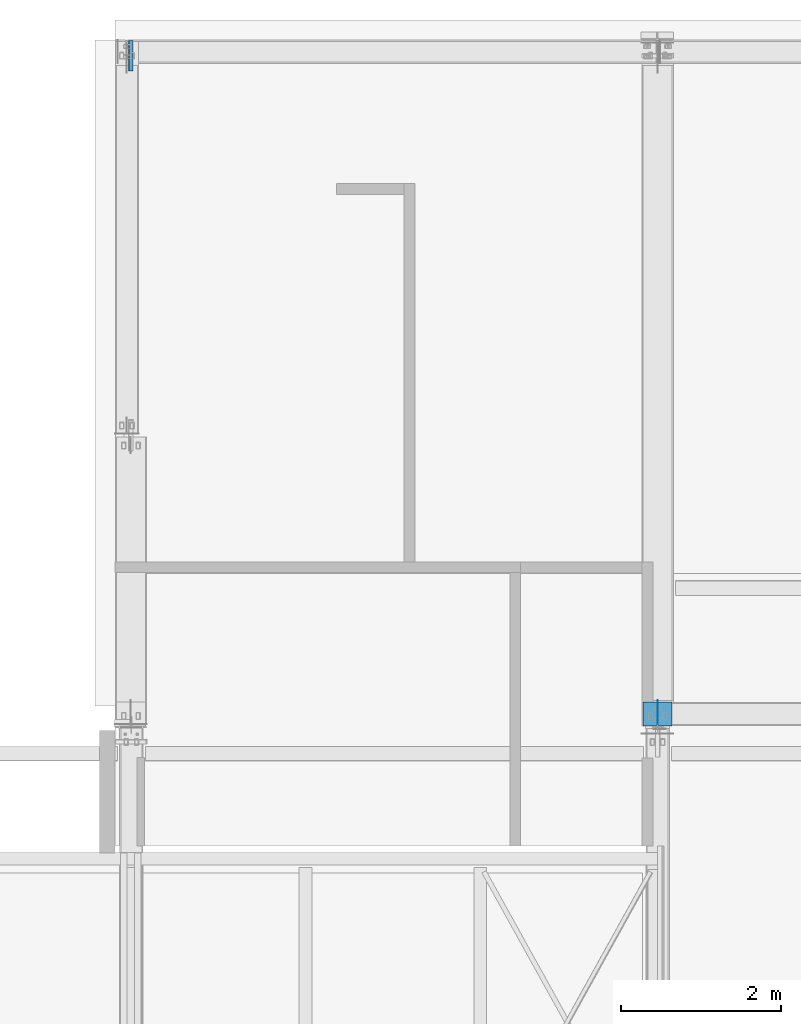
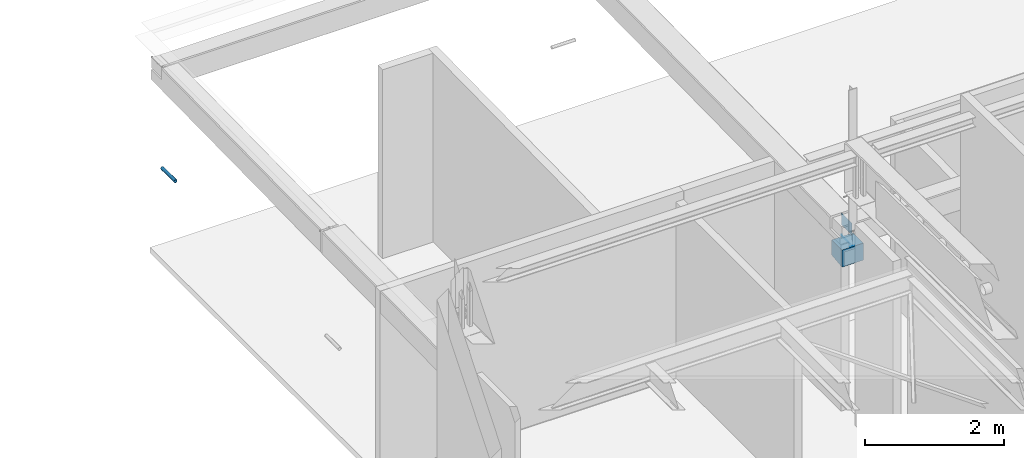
# One storey, part 44 of 186: 4 beams.
"""IFC4X3_ADD2 building model written with IfcOpenShell, lengths in millimetres."""

import ifcopenshell
import ifcopenshell.guid

model = None  # the IFC model being written
_history = None  # IfcOwnerHistory: only IFC2X3 demands one
_inside = {}  # id of a spatial element -> (the spatial element, [elements in it])
_under = {}  # id of a project, library or spatial element -> (it, [spatial elements below it])
_declared = {}  # id of a project -> (the project, [libraries it declares])
_typed = {}  # id of a type object -> (the type object, [elements of that type])
_made_of = {}  # id of a material, layer set ... -> (it, [elements and type objects made of it])


def new_model(schema):
    """Start an empty IFC model of exactly this schema.

    Asked for "IFC4X3", IfcOpenShell would pick the latest addendum, in which some entities
    have other attributes; the version numbers below select the first issue.
    IFC2X3 requires an IfcOwnerHistory on every rooted entity: one is made here for all.
    """
    global model, _history
    if schema == "IFC4X3":
        model = ifcopenshell.file(schema_version=(4, 3, 0, 0))
    else:
        model = ifcopenshell.file(schema=schema)
    _inside.clear()
    _under.clear()
    _declared.clear()
    _typed.clear()
    _made_of.clear()
    _history = None
    if model.schema == "IFC2X3":
        org = make("IfcOrganization", Name="unknown")
        user = make(
            "IfcPersonAndOrganization",
            ThePerson=make("IfcPerson", FamilyName="unknown"),
            TheOrganization=org,
        )
        app = make(
            "IfcApplication",
            ApplicationDeveloper=org,
            Version="unknown",
            ApplicationFullName="unknown",
            ApplicationIdentifier="unknown",
        )
        _history = make(
            "IfcOwnerHistory",
            OwningUser=user,
            OwningApplication=app,
            ChangeAction="ADDED",
            CreationDate=0,
        )
    return model


def make(cls, **values):
    """One entity of the class cls with the attributes given. An attribute that is None is left unset."""
    return model.create_entity(
        cls, **{name: value for name, value in values.items() if value is not None}
    )


def entity(cls, *values):
    """Any entity or typed value of the class cls, its attributes in the order of the schema. None: left unset."""
    e = model.create_entity(cls)
    for i, value in enumerate(values):
        if value is not None:
            e[i] = value
    return e


def rooted(cls, **values):
    """An entity with a GlobalId (a new one), such as an element, a storey or a relation."""
    return make(cls, GlobalId=ifcopenshell.guid.new(), OwnerHistory=_history, **values)


def si_unit(unit_type, name, prefix=None):
    """IfcSIUnit, for example si_unit("LENGTHUNIT", "METRE", prefix="MILLI")."""
    return make("IfcSIUnit", UnitType=unit_type, Prefix=prefix, Name=name)


def assignment(units):
    """IfcUnitAssignment: the units of a project."""
    return None if units is None else make("IfcUnitAssignment", Units=units)


def point(xyz):
    """IfcCartesianPoint."""
    return None if xyz is None else make("IfcCartesianPoint", Coordinates=xyz)


def direction(xyz):
    """IfcDirection."""
    return None if xyz is None else make("IfcDirection", DirectionRatios=xyz)


def frame(location, z_axis=None, x_axis=None):
    """IfcAxis2Placement3D, a coordinate frame: its origin and axes. An axis left out is left unset."""
    return make(
        "IfcAxis2Placement3D",
        Location=point(location),
        Axis=direction(z_axis),
        RefDirection=direction(x_axis),
    )


def frame_2d(location, x_axis=None):
    """IfcAxis2Placement2D, a coordinate frame in the plane: its origin and x axis."""
    return make(
        "IfcAxis2Placement2D", Location=point(location), RefDirection=direction(x_axis)
    )


def origin_with_axes():
    """The frame at (0, 0, 0) with the z axis (0, 0, 1) and the x axis (1, 0, 0) written out."""
    return frame((0.0, 0.0, 0.0), z_axis=(0.0, 0.0, 1.0), x_axis=(1.0, 0.0, 0.0))


def place(relative_to, where):
    """IfcLocalPlacement: puts the frame where relative to a parent placement (None: the world)."""
    return make(
        "IfcLocalPlacement", PlacementRelTo=relative_to, RelativePlacement=where
    )


def context(
    kind, dimensions, precision=None, world=None, true_north=None, identifier=None
):
    """IfcGeometricRepresentationContext, for example the 3D "Model" context."""
    return make(
        "IfcGeometricRepresentationContext",
        ContextIdentifier=identifier,
        ContextType=kind,
        CoordinateSpaceDimension=dimensions,
        Precision=precision,
        WorldCoordinateSystem=world,
        TrueNorth=true_north,
    )


def subcontext(parent, identifier, kind, view, scale=None):
    """IfcGeometricRepresentationSubContext, for example "Body" below "Model"."""
    return make(
        "IfcGeometricRepresentationSubContext",
        ContextIdentifier=identifier,
        ContextType=kind,
        ParentContext=parent,
        TargetScale=scale,
        TargetView=view,
    )


def project(units=None, contexts=None):
    """IfcProject with its units and contexts."""
    return rooted(
        "IfcProject",
        Name="project",
        RepresentationContexts=contexts,
        UnitsInContext=assignment(units),
    )


def spatial(cls, under=None, at=None, **own):
    """A site, building, storey or space (cls), placed at a placement, below another one or the project."""
    s = rooted(cls, ObjectPlacement=at, **own)
    if under is not None:
        _under.setdefault(under.id(), (under, []))[1].append(s)
    return s


def profile(cls, at=None, kind="AREA", **sizes):
    """A parametric profile (cls). Its sizes go by their IFC names, for example OverallWidth=200.0."""
    return make(cls, ProfileType=kind, Position=at, **sizes)


def rectangle(**sizes):
    """IfcRectangleProfileDef."""
    return profile("IfcRectangleProfileDef", **sizes)


def hollow_circle(**sizes):
    """IfcCircleHollowProfileDef."""
    return profile("IfcCircleHollowProfileDef", **sizes)


def extrude(swept, where, along, depth):
    """IfcExtrudedAreaSolid: the profile swept, set in the frame where, extruded along a direction by depth."""
    return make(
        "IfcExtrudedAreaSolid",
        SweptArea=swept,
        Position=where,
        ExtrudedDirection=direction(along),
        Depth=depth,
    )


def shape(context_of_items, identifier, shape_type, items):
    """IfcShapeRepresentation: the items that make up one representation, for example the "Body"."""
    return make(
        "IfcShapeRepresentation",
        ContextOfItems=context_of_items,
        RepresentationIdentifier=identifier,
        RepresentationType=shape_type,
        Items=items,
    )


def material(Name=None, Category=None):
    """IfcMaterial."""
    return make("IfcMaterial", Name=Name, Category=Category)


def made_of(thing, what):
    """Note that an element or type object is made of a material, layer set ...; save() writes the relation."""
    if what is not None:
        _made_of.setdefault(what.id(), (what, []))[1].append(thing)
    return thing


def element(
    cls,
    number,
    at=None,
    inside=None,
    cuts=None,
    type_object=None,
    material=None,
    context=None,
    identifier="Body",
    shape_type=None,
    held_by="IfcProductDefinitionShape",
    body=None,
    shapes=None,
    **own,
):
    """One element of the class cls, such as IfcWall. Its Tag is "e" and its number.

    at: its placement. inside: the storey or other place that contains it. cuts: it is an
    opening in that element (IfcRelVoidsElement). A single representation is given by context,
    identifier, shape_type and body (its items); several are given by shapes. held_by: the class
    of the entity that holds the representations. save() writes the other relations.
    """
    e = rooted(cls, Tag="e%d" % number, ObjectPlacement=at, **own)
    if body is not None:
        shapes = [shape(context, identifier, shape_type, body)]
    if shapes is not None:
        e.Representation = make(held_by, Representations=shapes)
    if inside is not None:
        _inside.setdefault(inside.id(), (inside, []))[1].append(e)
    if cuts is not None:
        rooted(
            "IfcRelVoidsElement", RelatingBuildingElement=cuts, RelatedOpeningElement=e
        )
    if type_object is not None:
        _typed.setdefault(type_object.id(), (type_object, []))[1].append(e)
    return made_of(e, material)


def aggregate(whole, parts):
    """IfcRelAggregates: a whole, such as a stair, and the parts it consists of."""
    return rooted("IfcRelAggregates", RelatingObject=whole, RelatedObjects=parts)


def save(model, path):
    """Write the relations noted so far, then the file.

    IfcRelAggregates (storeys below a building ...), IfcRelContainedInSpatialStructure (elements
    in a storey), IfcRelDefinesByType, IfcRelAssociatesMaterial and IfcRelDeclares: one each for
    every whole, place, type object, material and project.
    """
    for whole, parts in _under.values():
        aggregate(whole, parts)
    for where, things in _inside.values():
        rooted(
            "IfcRelContainedInSpatialStructure",
            RelatedElements=things,
            RelatingStructure=where,
        )
    for kind, things in _typed.values():
        rooted("IfcRelDefinesByType", RelatedObjects=things, RelatingType=kind)
    for what, things in _made_of.values():
        rooted("IfcRelAssociatesMaterial", RelatedObjects=things, RelatingMaterial=what)
    for by, libraries in _declared.values():
        rooted("IfcRelDeclares", RelatingContext=by, RelatedDefinitions=libraries)
    model.write(path)


model = new_model("IFC4X3_ADD2")

# Units and contexts
model_context = context("Model", 3, precision=1e-05, world=origin_with_axes(), true_north=direction((0.0, 1.0)))
body_context = subcontext(model_context, "Body", "Model", "MODEL_VIEW")
ifc_project = project(units=[si_unit("LENGTHUNIT", "METRE", prefix="MILLI"), si_unit("AREAUNIT", "SQUARE_METRE"), si_unit("VOLUMEUNIT", "CUBIC_METRE"), si_unit("PLANEANGLEUNIT", "RADIAN"), si_unit("TIMEUNIT", "SECOND"), si_unit("MASSUNIT", "GRAM")], contexts=[model_context])

# Site, building, storey
site_placement = place(None, origin_with_axes())
site = spatial("IfcSite", under=ifc_project, at=site_placement, Name="Site", CompositionType="ELEMENT")
building_placement = place(site_placement, origin_with_axes())
building = spatial("IfcBuilding", under=site, at=building_placement, Name="IFC Building Story")
storey_placement = place(building_placement, frame((0.0, 0.0, 4370.0), z_axis=(0.0, 0.0, 1.0), x_axis=(1.0, 0.0, 0.0)))
storey = spatial("IfcBuildingStorey", under=building, at=storey_placement, Name="ETAGE 10 (1)", Elevation=4370.0)

# Beams
ifc_material_1 = material(Name="STEEL/Accessory_C50/60 64192")
beam_1_placement = place(storey_placement, frame((40146.189, 18150.0, 2680.333000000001), z_axis=(-1.0, 0.0, 0.0), x_axis=(0.0, 0.0, 1.0)))
element("IfcBeam", 1, at=beam_1_placement, inside=storey, material=ifc_material_1, Name="BEK1", ObjectType="CORBEL300-300-260", context=body_context, shape_type="SweptSolid", body=[
    extrude(entity("IfcTrapeziumProfileDef", "AREA", None, entity("IfcAxis2Placement2D", entity("IfcCartesianPoint", [0.0, 5.95523630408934e-12]), entity("IfcDirection", [1.0, 0.0])), 300.0, 260.0, 300.0, 40.0), origin_with_axes(), (0.0, 0.0, 1.0), 360.0),
])
ifc_material_2 = material(Name="STEEL/Accessory_invisible 261")
beam_2_placement = place(storey_placement, frame((39965.6890198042, 18171.5232475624, 3127.34029492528), z_axis=(1.0, 0.0, 0.0), x_axis=(0.0, 0.01552956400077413, -0.9998794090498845)))
element("IfcBeam", 2, at=beam_2_placement, inside=storey, material=ifc_material_2, Name="BEK4", ObjectType="210*1 2", context=body_context, shape_type="SweptSolid", body=[
    extrude(rectangle(XDim=210.0, YDim=300.250053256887, at=frame_2d((0.0, 5.95523630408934e-12), x_axis=(1.0, 0.0))), origin_with_axes(), (0.0, 0.0, 1.0), 0.9999999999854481),
])
beam_3_placement = place(storey_placement, frame((39965.6890198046, 18169.9141536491, 2837.780388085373), z_axis=(1.0, 0.0, 0.0), x_axis=(0.0, 0.01552956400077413, -0.9998794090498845)))
element("IfcBeam", 3, at=beam_3_placement, inside=storey, material=ifc_material_2, Name="BEK4", ObjectType="11*1 2", context=body_context, shape_type="SweptSolid", body=[
    extrude(rectangle(XDim=11.0, YDim=300.036181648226, at=frame_2d((0.0, 5.95523630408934e-12), x_axis=(1.0, 0.0))), origin_with_axes(), (0.0, 0.0, 1.0), 1.0),
])
ifc_material_3 = material(Name="STEEL/Accessory_PVC")
beam_4_placement = place(storey_placement, frame((33401.1883474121, 26162.9989623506, 1330.0), z_axis=(0.0, 1.0, 0.0), x_axis=(1.0, 0.0, 0.0)))
element("IfcBeam", 4, at=beam_4_placement, inside=storey, material=ifc_material_3, Name="PS13", ObjectType="O56*3", context=body_context, shape_type="SweptSolid", body=[
    extrude(hollow_circle(Radius=28.0, WallThickness=3.0, at=frame_2d((0.0, 5.95523630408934e-12), x_axis=(1.0, 0.0))), origin_with_axes(), (0.0, 0.0, 1.0), 384.0),
])

save(model, "model.ifc")
